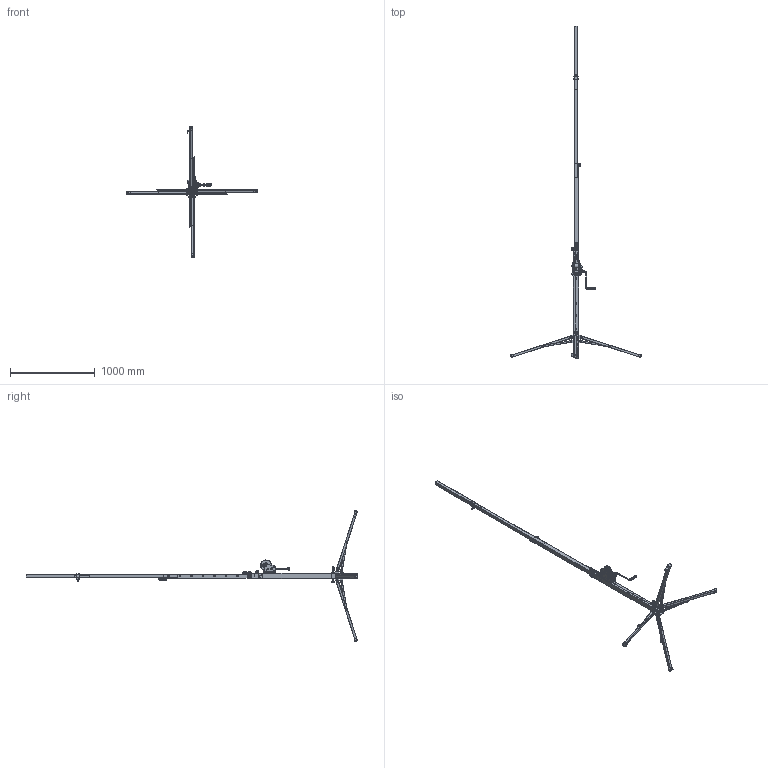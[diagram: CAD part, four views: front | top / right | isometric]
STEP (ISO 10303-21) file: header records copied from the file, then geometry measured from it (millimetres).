
FILE_DESCRIPTION (( 'STEP AP214' ), '1' );
FILE_NAME ('Torre K-1.1.STEP', '2022-10-06T11:05:00', ( '' ), ( '' ), 'SwSTEP 2.0', 'SolidWorks 2022', '' );
FILE_SCHEMA (( 'AUTOMOTIVE_DESIGN' ));
Length unit declared in the file: millimetre
Products named in the file (75): 2035; 2074L_Pomo rosca M8 nylon (30-10-18); ANI-32x3; socket countersunk head screw_din_DIN 7991 - M6 x 12 --- 5.7N; ORE-001; 2023; CTP-001; AR125.12.G; CHC-001; TO931.8.0G_TO931.8.55z; 2036; T912.8.0_T912.8.16z; CTP-003_Laser; AR125.8.G; Ø3x22mm DIN 1481; 2093-01; Torre K-1.1; 2041; 2182K; 2042; Pomo plástico rojo Cabrestante alko compact; 2071_Tapón plástico para patas de 30x30mm; ORE-002; CGA_K-27; PET50-6-40B; 2022; 2125K - Pomo Kuzar verde rosca metálica M10x35 (09-09-19); EX-034; 2025N_Pletina eje inferior torres pequeñas; PGA-49x40; 2073_Tapón de plástico 30x30x25mm; 2065-01; 2053-01; 2091; 2072_Tapón de plástico 20x16x21mm; TU985.8z; 2067; Manivela sin pomo (para render 3d); 2094-04; Alko 450 Compact Original (Sin manivela)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
Assembly tree (172 placements, depth 4):
  Torre K-1.1
    2091
      2091-01
      ORE-001  x2
      CHC-001
      CTP-003_Laser
    2092
      2092-01
      CTP-001
      PET50-6-40A
      PET50-6-40B
      BAR6-120
    2093
      PET40-6-40  x2
      2093-01
      BAR6-120
    EX-034
    2094
      2094-01
      2094-03
      2094-04
    2067  x3
    2068  x4
    2042
      2042-02_2042-02
      2042-01_2042-01
    2053
      2053-01
      ORE-002  x4
    2065
      2065-01
      ORE-003  x8
      TU936.8.I2
      TU936.18.I2
    2036  x2
    2021  x2
    2035
    2022
    2024N
    2025N_Pletina eje inferior torres pequeñas
    2023  x2
    2041  x2
    2189K
      BUL-013
      GAT-009
      ANI-32x3
    2182K  x2
      ACD-004
      GAT-005
        CGA_K-27
        PGA-49x40
      BUL-005
      socket countersunk head screw_din_DIN 7991 - M6 x 12 --- 5.7N
      Ø3x22mm DIN 1481
    2073_Tapón de plástico 30x30x25mm  x4
    2072_Tapón de plástico 20x16x21mm  x4
    2071_Tapón plástico para patas de 30x30mm  x4
    T912.6.0_T912.6.20z  x6
    AR125.6.G  x14
    TO7991.5.0G_TO7991.5.12G  x3
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Bounding box: 1536.09 x 3906.57 x 1536.09 mm (x, y, z)
Volume: 2643787.5 mm3; surface area: 3124837 mm2
Topology: 173 solids, 226 shells, 5309 faces, 13028 edges, 8323 vertices
Faces by surface type: plane 2349, cylinder 1922, cone 661, bspline 224, torus 143, sphere 10
Entity records: 173840 total; most frequent: CARTESIAN_POINT 76847, DIRECTION 18032, ORIENTED_EDGE 17794, EDGE_CURVE 8899, AXIS2_PLACEMENT_3D 6689, VERTEX_POINT 5741, VECTOR 4654, LINE 4654
